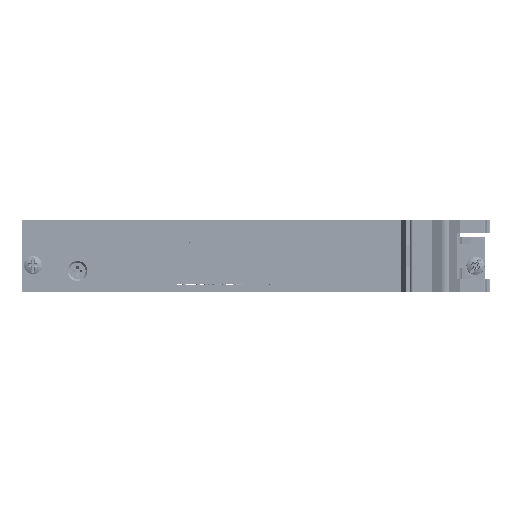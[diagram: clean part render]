
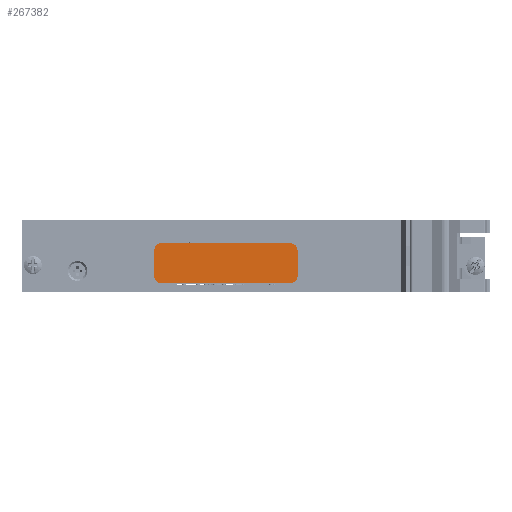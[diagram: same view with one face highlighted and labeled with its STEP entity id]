
A CAD part, left-side view. The second image highlights one B-rep face of the part: STEP entity #267382.
In plain terms, the highlighted planar face has unit normal (-1, 0, 0) as drawn and (0, 0, -1) by its records, which use the part's own axes.
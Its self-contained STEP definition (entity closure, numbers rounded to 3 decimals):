
#21 = ORIENTED_EDGE ( 'NONE', *, *, #273011, .T. ) ;
#2483 = EDGE_CURVE ( 'NONE', #424442, #53384, #159807, .T. ) ;
#14777 = CARTESIAN_POINT ( 'NONE',  ( -2., 0., -12. ) ) ;
#17192 = VECTOR ( 'NONE', #145345, 1000. ) ;
#22874 = FACE_OUTER_BOUND ( 'NONE', #283229, .T. ) ;
#24926 = CARTESIAN_POINT ( 'NONE',  ( -2., 11.1, -12. ) ) ;
#28206 = DIRECTION ( 'NONE',  ( 0., 0., -1. ) ) ;
#36085 = DIRECTION ( 'NONE',  ( -1., 0., 0. ) ) ;
#47422 = DIRECTION ( 'NONE',  ( -1., 0., 0. ) ) ;
#48186 = DIRECTION ( 'NONE',  ( 0., -1., 0. ) ) ;
#53384 = VERTEX_POINT ( 'NONE', #301659 ) ;
#60236 = EDGE_CURVE ( 'NONE', #93834, #91970, #118046, .T. ) ;
#60261 = AXIS2_PLACEMENT_3D ( 'NONE', #346241, #76438, #110608 ) ;
#63939 = ORIENTED_EDGE ( 'NONE', *, *, #251594, .T. ) ;
#76438 = DIRECTION ( 'NONE',  ( 0., 0., -1. ) ) ;
#76950 = CARTESIAN_POINT ( 'NONE',  ( -39.7, 2., -12. ) ) ;
#91970 = VERTEX_POINT ( 'NONE', #392617 ) ;
#93834 = VERTEX_POINT ( 'NONE', #292632 ) ;
#95253 = AXIS2_PLACEMENT_3D ( 'NONE', #217689, #28206, #47422 ) ;
#108829 = VERTEX_POINT ( 'NONE', #14777 ) ;
#109587 = CARTESIAN_POINT ( 'NONE',  ( -37.7, 11.1, -12. ) ) ;
#110608 = DIRECTION ( 'NONE',  ( -1., 0., 0. ) ) ;
#117092 = CIRCLE ( 'NONE', #380082, 2. ) ;
#118046 = LINE ( 'NONE', #290018, #418625 ) ;
#133029 = CIRCLE ( 'NONE', #60261, 2. ) ;
#133953 = EDGE_CURVE ( 'NONE', #336158, #382038, #197611, .T. ) ;
#134302 = DIRECTION ( 'NONE',  ( -1., 0., 0. ) ) ;
#141655 = ORIENTED_EDGE ( 'NONE', *, *, #428519, .T. ) ;
#142861 = EDGE_CURVE ( 'NONE', #91970, #108829, #210677, .T. ) ;
#145345 = DIRECTION ( 'NONE',  ( 0., 1., 0. ) ) ;
#145860 = CARTESIAN_POINT ( 'NONE',  ( -37.7, 0., -12. ) ) ;
#159807 = LINE ( 'NONE', #76950, #17192 ) ;
#164606 = CARTESIAN_POINT ( 'NONE',  ( -2., 9.1, -12. ) ) ;
#171488 = CARTESIAN_POINT ( 'NONE',  ( -2., 0., -12. ) ) ;
#172598 = AXIS2_PLACEMENT_3D ( 'NONE', #307789, #403895, #134302 ) ;
#194637 = DIRECTION ( 'NONE',  ( 0., 0., -1. ) ) ;
#197611 = LINE ( 'NONE', #109587, #356475 ) ;
#198407 = DIRECTION ( 'NONE',  ( 0., 0., -1. ) ) ;
#202074 = LINE ( 'NONE', #171488, #205722 ) ;
#205722 = VECTOR ( 'NONE', #415868, 1000. ) ;
#210677 = CIRCLE ( 'NONE', #350553, 2. ) ;
#216864 = CIRCLE ( 'NONE', #95253, 2. ) ;
#217689 = CARTESIAN_POINT ( 'NONE',  ( -37.7, 9.1, -12. ) ) ;
#223356 = DIRECTION ( 'NONE',  ( 1., 0., 0. ) ) ;
#230751 = EDGE_CURVE ( 'NONE', #53384, #336158, #216864, .T. ) ;
#240391 = ORIENTED_EDGE ( 'NONE', *, *, #142861, .T. ) ;
#251594 = EDGE_CURVE ( 'NONE', #319338, #424442, #133029, .T. ) ;
#266776 = DIRECTION ( 'NONE',  ( -1., 0., 0. ) ) ;
#267382 = ADVANCED_FACE ( 'NONE', ( #22874 ), #386332, .T. ) ;
#273011 = EDGE_CURVE ( 'NONE', #382038, #93834, #117092, .T. ) ;
#274096 = ORIENTED_EDGE ( 'NONE', *, *, #2483, .T. ) ;
#283229 = EDGE_LOOP ( 'NONE', ( #366582, #353317, #21, #384648, #240391, #141655, #63939, #274096 ) ) ;
#290018 = CARTESIAN_POINT ( 'NONE',  ( 0., 9.1, -12. ) ) ;
#292632 = CARTESIAN_POINT ( 'NONE',  ( 0., 9.1, -12. ) ) ;
#300135 = CARTESIAN_POINT ( 'NONE',  ( -39.7, 2., -12. ) ) ;
#301659 = CARTESIAN_POINT ( 'NONE',  ( -39.7, 9.1, -12. ) ) ;
#307789 = CARTESIAN_POINT ( 'NONE',  ( -37.7, 9.1, -12. ) ) ;
#319338 = VERTEX_POINT ( 'NONE', #145860 ) ;
#336158 = VERTEX_POINT ( 'NONE', #403669 ) ;
#346241 = CARTESIAN_POINT ( 'NONE',  ( -37.7, 2., -12. ) ) ;
#350553 = AXIS2_PLACEMENT_3D ( 'NONE', #415840, #194637, #36085 ) ;
#353317 = ORIENTED_EDGE ( 'NONE', *, *, #133953, .T. ) ;
#356475 = VECTOR ( 'NONE', #223356, 1000. ) ;
#366582 = ORIENTED_EDGE ( 'NONE', *, *, #230751, .T. ) ;
#380082 = AXIS2_PLACEMENT_3D ( 'NONE', #164606, #198407, #266776 ) ;
#382038 = VERTEX_POINT ( 'NONE', #24926 ) ;
#384648 = ORIENTED_EDGE ( 'NONE', *, *, #60236, .T. ) ;
#386332 = PLANE ( 'NONE',  #172598 ) ;
#392617 = CARTESIAN_POINT ( 'NONE',  ( 0., 2., -12. ) ) ;
#403669 = CARTESIAN_POINT ( 'NONE',  ( -37.7, 11.1, -12. ) ) ;
#403895 = DIRECTION ( 'NONE',  ( 0., 0., -1. ) ) ;
#415840 = CARTESIAN_POINT ( 'NONE',  ( -2., 2., -12. ) ) ;
#415868 = DIRECTION ( 'NONE',  ( -1., 0., 0. ) ) ;
#418625 = VECTOR ( 'NONE', #48186, 1000. ) ;
#424442 = VERTEX_POINT ( 'NONE', #300135 ) ;
#428519 = EDGE_CURVE ( 'NONE', #108829, #319338, #202074, .T. ) ;
